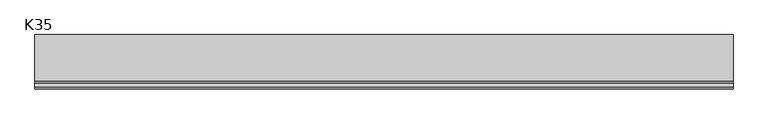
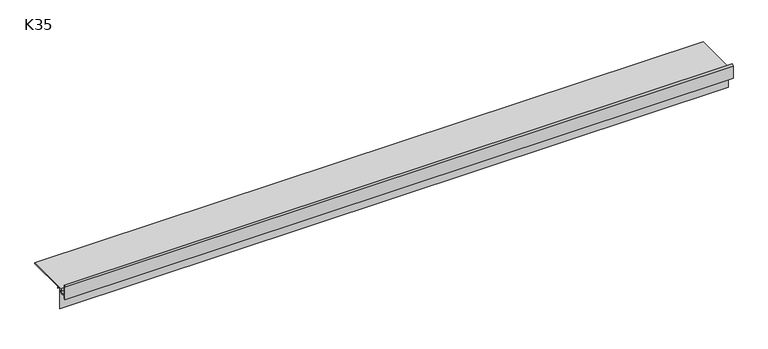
"""IFC4 building model written with IfcOpenShell, lengths in millimetres: proxy geometry, K35 Profil okapowy prosty z rynną : K35."""

from ifc_helpers import new_model, si_unit, point, frame, frame_2d, origin, place, context, project, spatial, polyline, circle_curve, trimmed, segment, composite_curve, outline, extrude, source, transform, mapped, element, save


def k35_2318d30b(model_context):
    return source(origin(), model_context, "Body", "SweptSolid", [
        extrude(outline(composite_curve([segment(polyline([(-0.0010677, 0.0), (-0.0010677, -1.8358001)]), True, "CONTINUOUS"), segment(trimmed(circle_curve(frame_2d((-0.0010677, -2.8358001)), 1.0), [point((-0.0010677, -1.8358001))], [point((-1.0010677, -2.8358001))], True, "CARTESIAN"), True, "CONTINUOUS"), segment(polyline([(-1.0010677, -2.8358001), (-1.0010677, -19.6829113), (13.1366439, -19.6829113), (13.1366439, -14.9), (11.3457599, -14.9)]), True, "CONTINUOUS"), segment(trimmed(circle_curve(frame_2d((11.3457599, -16.3022282)), 1.4022282), [point((11.3457599, -14.9))], [point((9.9435317, -16.3022282))], True, "CARTESIAN"), True, "CONTINUOUS"), segment(polyline([(9.9435317, -16.3022282), (8.4405044, -16.3022282)]), True, "CONTINUOUS"), segment(trimmed(circle_curve(frame_2d((11.0612599, -16.1266316)), 2.6266316), [point((8.4405044, -16.3022282))], [point((11.0612599, -13.5))], False, "CARTESIAN"), True, "CONTINUOUS"), segment(polyline([(11.0612599, -13.5), (95.0989323, -13.5), (95.0989323, -14.9), (21.5989323, -14.9), (21.5989323, -17.8969711), (20.0989323, -17.8969711), (20.0989323, -14.9), (15.0989323, -14.9), (15.0989323, -54.7), (13.5989323, -54.7), (13.5989323, -21.1829113), (10.049712, -21.1829113), (8.5231229, -22.7095005), (8.5231229, -21.1829113), (-1.0010677, -21.1829113), (-1.0010677, -25.549015), (-2.5010677, -26.8), (-2.5010677, -2.8358001)]), True, "CONTINUOUS"), segment(trimmed(circle_curve(frame_2d((0.4087938, -2.8812097)), 2.9102158), [point((-2.5010677, -2.8358001))], [point((-0.0010677, 0.0))], False, "CARTESIAN"), True, "CONTINUOUS")], self_intersect=False)), frame((0.0, 0.0, 0.0), z_axis=(1.0, 0.0, 0.0), x_axis=(0.0, 1.0, 0.0)), (0.0, 0.0, 1.0), 1253.0878004),
    ])


if __name__ == "__main__":
    model = new_model("IFC4")
    model_context = context("Model", 3, world=origin())
    ifc_project = project(units=[si_unit("LENGTHUNIT", "METRE", prefix="MILLI")], contexts=[model_context])
    site = spatial("IfcSite", under=ifc_project)
    building = spatial("IfcBuilding", under=site)
    placement = place(None, origin())
    k35_shape = k35_2318d30b(model_context)
    element("IfcBuildingElementProxy", 1, Name="K35 Profil okapowy prosty z rynną : K35", ObjectType="K35 Profil okapowy prosty z rynną : K35", at=placement, inside=building, context=model_context, shape_type="MappedRepresentation", body=[
        mapped(k35_shape, transform((0.0, 0.0, 0.0), x_axis=(1.0, 0.0, 0.0), y_axis=(0.0, 1.0, 0.0), z_axis=(0.0, 0.0, 1.0))),
    ])
    save(model, "model.ifc")
